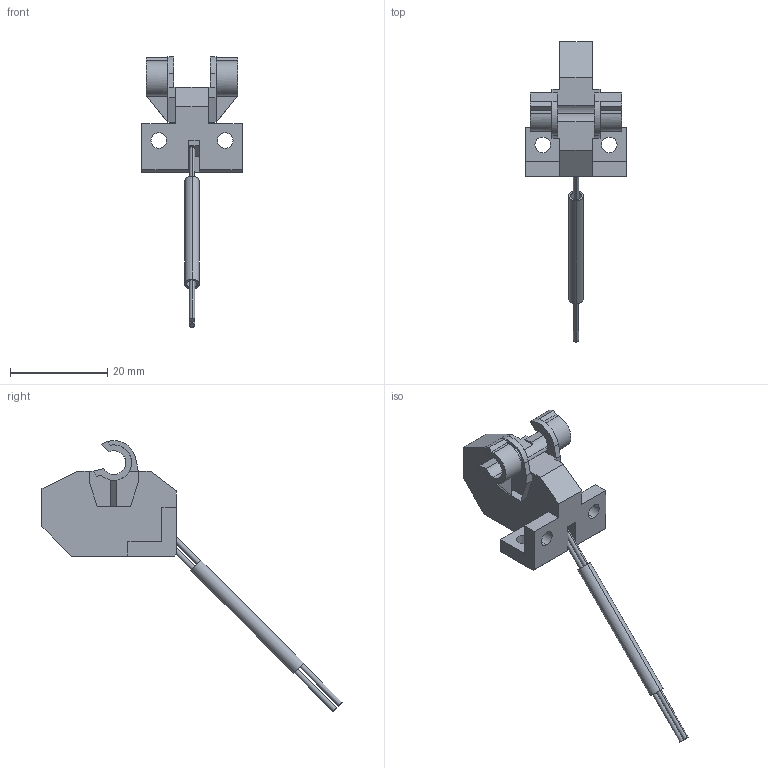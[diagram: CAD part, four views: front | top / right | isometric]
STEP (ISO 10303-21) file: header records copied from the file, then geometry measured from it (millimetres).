
FILE_DESCRIPTION (( 'STEP AP203' ), '1' );
FILE_NAME ('fd-bef50.STEP', '2020-09-24T01:35:54', ( '' ), ( '' ), 'SwSTEP 2.0', 'SolidWorks 2017', '' );
FILE_SCHEMA (( 'CONFIG_CONTROL_DESIGN' ));
Length unit declared in the file: millimetre
Products named in the file (1): fd-bef50
Bounding box: 20.7 x 61.79 x 55.79 mm (x, y, z)
Volume: 4160.9 mm3; surface area: 3365.5 mm2
Topology: 1 solids, 1 shells, 101 faces, 287 edges, 188 vertices
Faces by surface type: plane 69, cylinder 32
Entity records: 3378 total; most frequent: CARTESIAN_POINT 589, ORIENTED_EDGE 574, DIRECTION 563, EDGE_CURVE 287, VECTOR 207, LINE 207, VERTEX_POINT 188, AXIS2_PLACEMENT_3D 178
